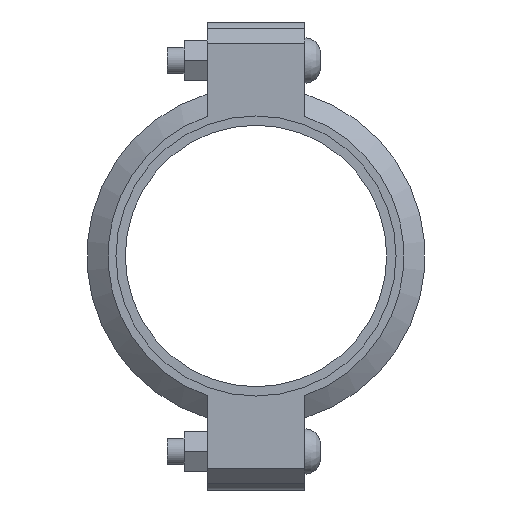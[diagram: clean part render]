
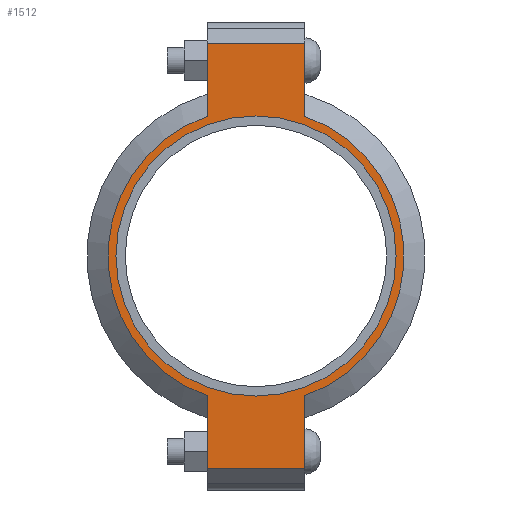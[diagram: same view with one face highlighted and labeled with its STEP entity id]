
A CAD part, left-side view. The second image highlights one B-rep face of the part: STEP entity #1512.
In plain terms, the highlighted planar face has unit normal (-1, 0, 0) as drawn and (0, 0, 1) by its records, which use the part's own axes.
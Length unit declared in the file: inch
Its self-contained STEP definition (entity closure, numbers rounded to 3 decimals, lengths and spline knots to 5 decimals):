
#192=LINE('',#2605,#283);
#200=LINE('',#2641,#291);
#207=LINE('',#2662,#298);
#216=LINE('',#2694,#307);
#217=LINE('',#2698,#308);
#218=LINE('',#2700,#309);
#283=VECTOR('',#2099,0.3937);
#291=VECTOR('',#2115,0.3937);
#298=VECTOR('',#2134,0.3937);
#307=VECTOR('',#2159,0.3937);
#308=VECTOR('',#2164,0.3937);
#309=VECTOR('',#2165,0.3937);
#361=FACE_BOUND('',#521,.T.);
#425=FACE_OUTER_BOUND('',#520,.T.);
#520=EDGE_LOOP('',(#1247,#1248,#1249,#1250,#1251,#1252,#1253,#1254));
#521=EDGE_LOOP('',(#1255));
#618=CIRCLE('',#1755,3.5);
#619=CIRCLE('',#1756,3.5);
#620=CIRCLE('',#1757,3.3125);
#723=VERTEX_POINT('',#2602);
#724=VERTEX_POINT('',#2604);
#735=VERTEX_POINT('',#2636);
#736=VERTEX_POINT('',#2640);
#743=VERTEX_POINT('',#2659);
#744=VERTEX_POINT('',#2661);
#754=VERTEX_POINT('',#2697);
#755=VERTEX_POINT('',#2699);
#756=VERTEX_POINT('',#2702);
#887=EDGE_CURVE('',#724,#723,#192,.T.);
#901=EDGE_CURVE('',#736,#735,#200,.T.);
#911=EDGE_CURVE('',#744,#743,#207,.T.);
#926=EDGE_CURVE('',#736,#723,#216,.T.);
#927=EDGE_CURVE('',#735,#744,#618,.T.);
#928=EDGE_CURVE('',#754,#743,#217,.T.);
#929=EDGE_CURVE('',#754,#755,#218,.T.);
#930=EDGE_CURVE('',#755,#724,#619,.T.);
#931=EDGE_CURVE('',#756,#756,#620,.T.);
#1247=ORIENTED_EDGE('',*,*,#926,.F.);
#1248=ORIENTED_EDGE('',*,*,#901,.T.);
#1249=ORIENTED_EDGE('',*,*,#927,.T.);
#1250=ORIENTED_EDGE('',*,*,#911,.T.);
#1251=ORIENTED_EDGE('',*,*,#928,.F.);
#1252=ORIENTED_EDGE('',*,*,#929,.T.);
#1253=ORIENTED_EDGE('',*,*,#930,.T.);
#1254=ORIENTED_EDGE('',*,*,#887,.T.);
#1255=ORIENTED_EDGE('',*,*,#931,.T.);
#1366=PLANE('',#1754);
#1512=ADVANCED_FACE('',(#425,#361),#1366,.T.);
#1754=AXIS2_PLACEMENT_3D('',#2695,#2160,#2161);
#1755=AXIS2_PLACEMENT_3D('',#2696,#2162,#2163);
#1756=AXIS2_PLACEMENT_3D('',#2701,#2166,#2167);
#1757=AXIS2_PLACEMENT_3D('',#2703,#2168,#2169);
#2099=DIRECTION('',(-1.,0.,0.));
#2115=DIRECTION('',(1.,0.,0.));
#2134=DIRECTION('',(1.,0.,0.));
#2159=DIRECTION('',(0.,1.,0.));
#2160=DIRECTION('center_axis',(0.,0.,1.));
#2161=DIRECTION('ref_axis',(1.,0.,0.));
#2162=DIRECTION('center_axis',(0.,0.,1.));
#2163=DIRECTION('ref_axis',(-1.,0.,0.));
#2164=DIRECTION('',(0.,-1.,0.));
#2165=DIRECTION('',(-1.,0.,0.));
#2166=DIRECTION('center_axis',(0.,0.,1.));
#2167=DIRECTION('ref_axis',(-1.,0.,0.));
#2168=DIRECTION('center_axis',(0.,0.,-1.));
#2169=DIRECTION('ref_axis',(-1.,0.,0.));
#2602=CARTESIAN_POINT('',(-5.035,1.156,1.065));
#2604=CARTESIAN_POINT('',(-3.30358,1.156,1.065));
#2605=CARTESIAN_POINT('',(-5.535,1.156,1.065));
#2636=CARTESIAN_POINT('',(-3.30358,-1.156,1.065));
#2640=CARTESIAN_POINT('',(-5.035,-1.156,1.065));
#2641=CARTESIAN_POINT('',(5.535,-1.156,1.065));
#2659=CARTESIAN_POINT('',(5.035,-1.156,1.065));
#2661=CARTESIAN_POINT('',(3.30358,-1.156,1.065));
#2662=CARTESIAN_POINT('',(5.535,-1.156,1.065));
#2694=CARTESIAN_POINT('',(-5.035,0.578,1.065));
#2695=CARTESIAN_POINT('Origin',(0.,0.,1.065));
#2696=CARTESIAN_POINT('Origin',(0.,0.,1.065));
#2697=CARTESIAN_POINT('',(5.035,1.156,1.065));
#2698=CARTESIAN_POINT('',(5.035,-0.578,1.065));
#2699=CARTESIAN_POINT('',(3.30358,1.156,1.065));
#2700=CARTESIAN_POINT('',(-5.535,1.156,1.065));
#2701=CARTESIAN_POINT('Origin',(0.,0.,1.065));
#2702=CARTESIAN_POINT('',(3.3125,0.,1.065));
#2703=CARTESIAN_POINT('Origin',(0.,0.,1.065));
